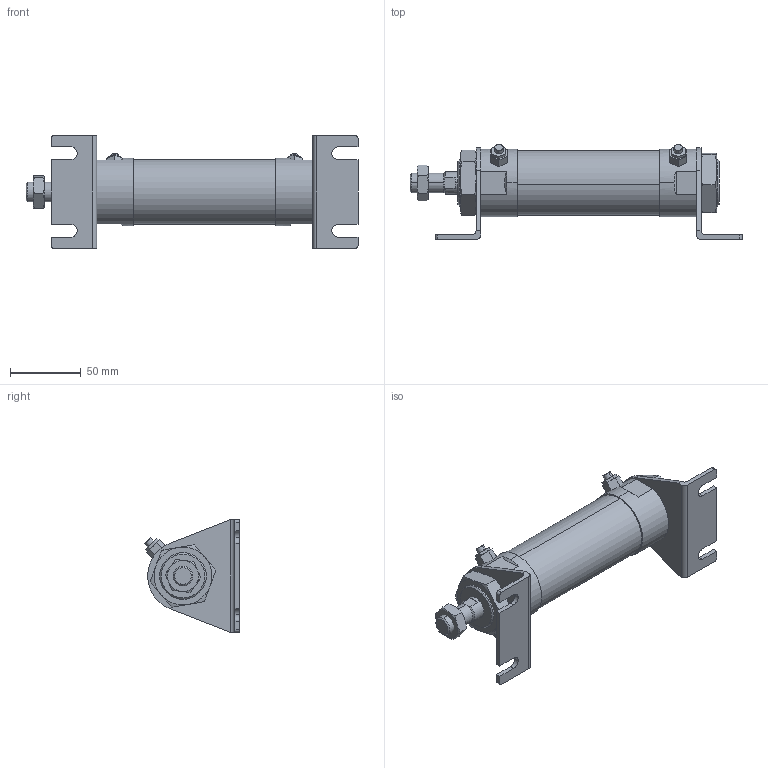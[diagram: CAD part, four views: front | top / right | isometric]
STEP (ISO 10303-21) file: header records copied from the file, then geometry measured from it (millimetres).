
FILE_DESCRIPTION (( 'STEP AP203' ), '1' );
FILE_NAME ('JG2-40-50-L.STEP', '2016-04-19T00:52:46', ( '' ), ( '' ), 'SwSTEP 2.0', 'SolidWorks 2014', '' );
FILE_SCHEMA (( 'CONFIG_CONTROL_DESIGN' ));
Length unit declared in the file: millimetre
Products named in the file (7): J#2-40-L; M33x2-11mm; 40-50; JG2-40B; JG2-40A; JG2-40-50-L; M14x1.5-8mm
Assembly tree (8 placements, depth 2):
  JG2-40-50-L
    JG2-40B
    40-50
    JG2-40A
    M14x1.5-8mm
    J#2-40-L  x2
    M33x2-11mm  x2
Bounding box: 235.2 x 67.22 x 80 mm (x, y, z)
Volume: 341991.8 mm3; surface area: 71262 mm2
Topology: 8 solids, 8 shells, 206 faces, 488 edges, 305 vertices
Faces by surface type: plane 103, cylinder 52, torus 36, cone 15
Entity records: 5697 total; most frequent: CARTESIAN_POINT 1375, DIRECTION 742, ORIENTED_EDGE 726, EDGE_CURVE 363, AXIS2_PLACEMENT_3D 282, VERTEX_POINT 229, LINE 178, VECTOR 178
